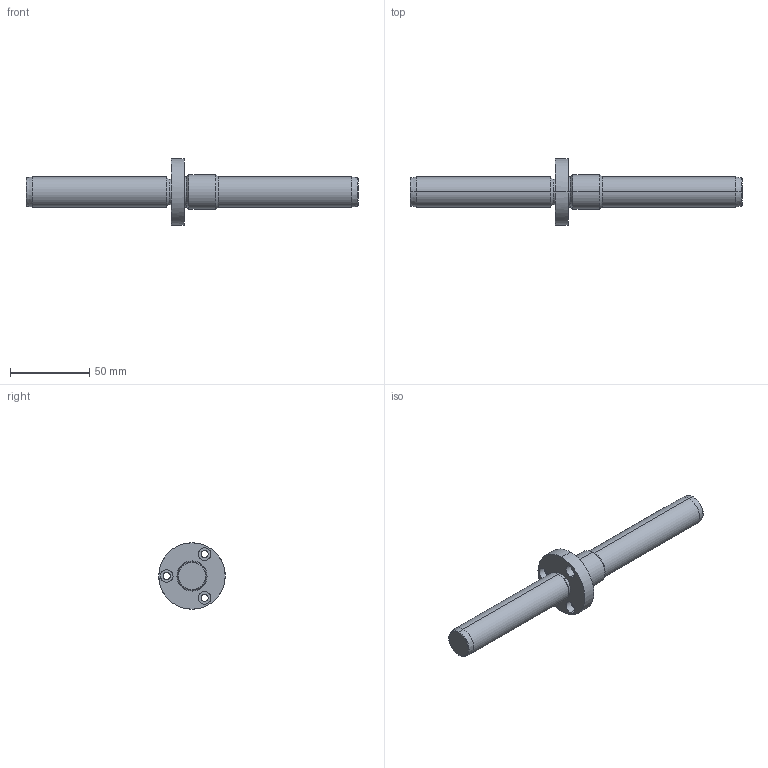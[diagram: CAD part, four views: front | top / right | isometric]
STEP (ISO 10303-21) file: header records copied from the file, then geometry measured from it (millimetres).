
FILE_DESCRIPTION(('CATIA V5 STEP Exchange'),'2;1');
FILE_NAME('C:\Users\Utente\Desktop\IO LAVORO\3D X SITO CF\X SITO\721\721-19x210.stp','2021-01-01T17:31:51+00:00',('none'),('none'),'CATIA Version 5 Release 20 GA (IN-10)','CATIA V5 STEP AP203','none');
FILE_SCHEMA(('CONFIG_CONTROL_DESIGN'));
Length unit declared in the file: millimetre
Products named in the file (1): 721-19x210
Bounding box: 210 x 42 x 42 mm (x, y, z)
Volume: 68962.5 mm3; surface area: 16540.7 mm2
Topology: 1 solids, 1 shells, 45 faces, 150 edges, 112 vertices
Faces by surface type: cylinder 24, cone 10, plane 7, torus 4
Entity records: 2060 total; most frequent: CARTESIAN_POINT 730, ORIENTED_EDGE 300, DIRECTION 206, EDGE_CURVE 150, AXIS2_PLACEMENT_3D 128, VERTEX_POINT 112, CIRCLE 82, EDGE_LOOP 56
